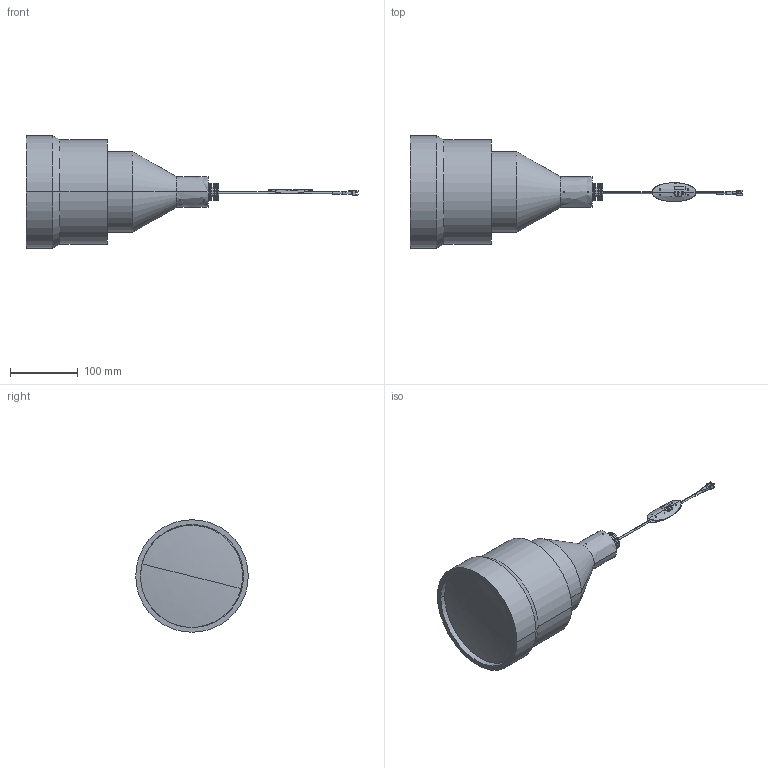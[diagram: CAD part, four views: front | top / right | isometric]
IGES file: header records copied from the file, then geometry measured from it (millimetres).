
Start section: 3D InterOp IGES (v. 2019 1.0.2), Spatial Corp. Copyright (c) 1999-2017.
Global section: file name: VCL-150-2P_DRAWING_3D.iges; native system: Spatial Corp.; preprocessor: 3D InterOp ACIS/IGES; author: Noname; organization: Noname; date: 20240304.115938; units: millimetre
Bounding box: 489.6 x 166 x 166 mm (x, y, z)
Surface area: 260273.2 mm2 (no closed solid volume)
Topology: 0 solids, 0 shells, 269 faces, 1594 edges, 1578 vertices
Faces by surface type: revolution 135, extrusion 124, bspline 10
